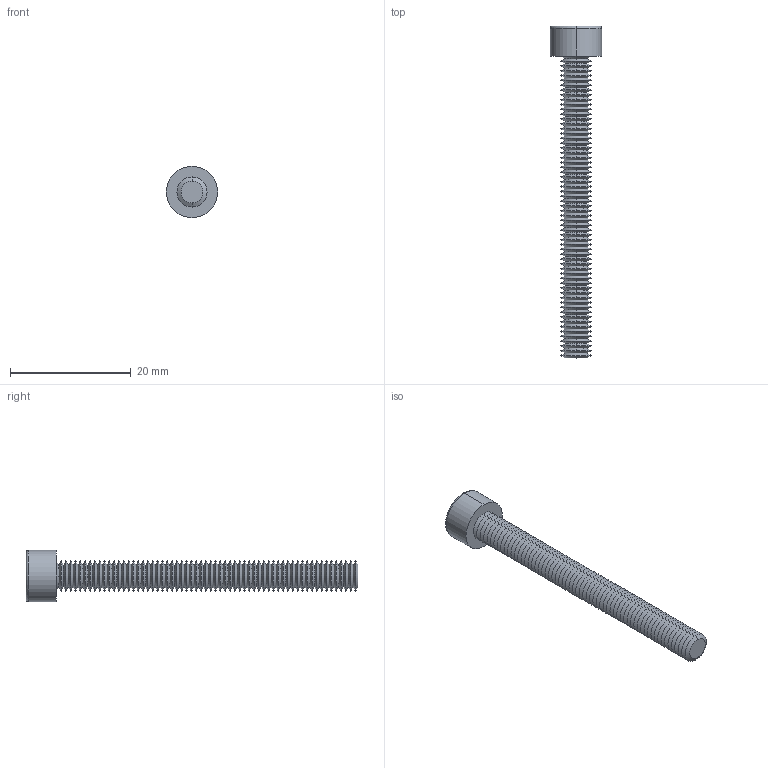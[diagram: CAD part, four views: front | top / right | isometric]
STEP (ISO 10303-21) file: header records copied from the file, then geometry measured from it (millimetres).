
FILE_DESCRIPTION (( 'STEP AP203' ), '1' );
FILE_NAME ('91N.050.0500.step', '2025-05-20T08:52:14', ( '' ), ( '' ), 'SwSTEP 2.0', 'SolidWorks 2019', '' );
FILE_SCHEMA (( 'CONFIG_CONTROL_DESIGN' ));
Length unit declared in the file: millimetre
Products named in the file (1): 91N.050.0500
Bounding box: 8.5 x 55 x 8.5 mm (x, y, z)
Volume: 957.3 mm3; surface area: 1642.8 mm2
Topology: 1 solids, 1 shells, 278 faces, 555 edges, 279 vertices
Faces by surface type: cone 259, plane 15, cylinder 2, torus 2
Entity records: 7028 total; most frequent: DIRECTION 1377, CARTESIAN_POINT 1138, ORIENTED_EDGE 1106, EDGE_CURVE 553, AXIS2_PLACEMENT_3D 552, EDGE_LOOP 280, VERTEX_POINT 279, ADVANCED_FACE 278
